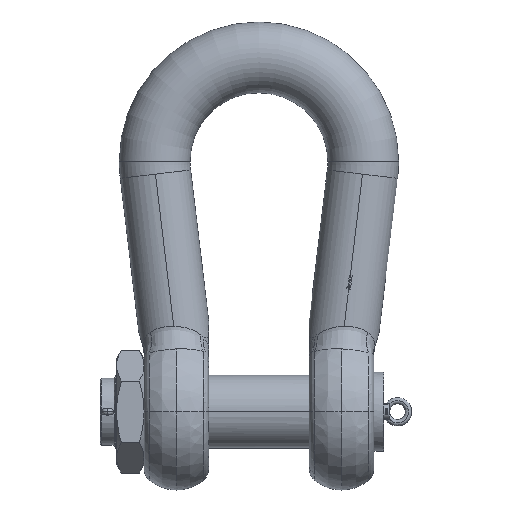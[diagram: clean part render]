
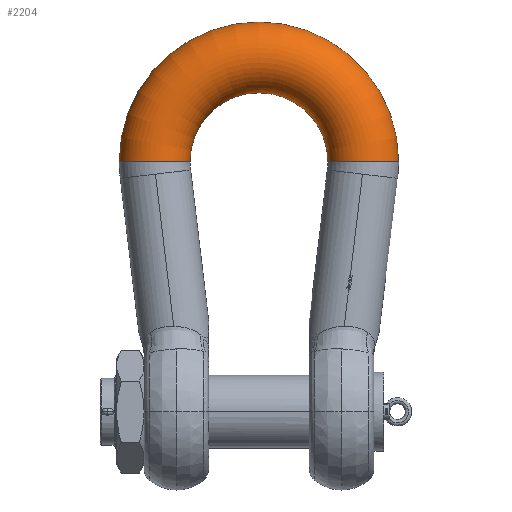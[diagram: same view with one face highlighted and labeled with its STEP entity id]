
A CAD part, front view. The second image highlights one B-rep face of the part: STEP entity #2204.
In plain terms, the highlighted toroidal (fillet/blend) face has major radius 265 mm and minor radius 89.995 mm.
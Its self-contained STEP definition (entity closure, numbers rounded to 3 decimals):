
#2204=ADVANCED_FACE('',(#5242),#5243,.T.);
#5242=FACE_OUTER_BOUND('',#11496,.T.);
#5243=TOROIDAL_SURFACE('',#11497,265.0,89.995);
#11496=EDGE_LOOP('',(#36180,#36181,#36182,#36183));
#11497=AXIS2_PLACEMENT_3D('',#36184,#36185,#36186);
#36180=ORIENTED_EDGE('',*,*,#47977,.T.);
#36181=ORIENTED_EDGE('',*,*,#47978,.F.);
#36182=ORIENTED_EDGE('',*,*,#47979,.T.);
#36183=ORIENTED_EDGE('',*,*,#47836,.F.);
#36184=CARTESIAN_POINT('',(0.0,0.0,635.5));
#36185=DIRECTION('',(0.0,-1.0,0.0));
#36186=DIRECTION('',(1.0,0.0,0.0));
#47836=EDGE_CURVE('',#55359,#55358,#55361,.F.);
#47977=EDGE_CURVE('',#55359,#55548,#55549,.F.);
#47978=EDGE_CURVE('',#55550,#55548,#55551,.T.);
#47979=EDGE_CURVE('',#55550,#55358,#55552,.T.);
#55358=VERTEX_POINT('',#70410);
#55359=VERTEX_POINT('',#70411);
#55361=CIRCLE('',#70413,89.995);
#55548=VERTEX_POINT('',#70880);
#55549=CIRCLE('',#70881,175.005);
#55550=VERTEX_POINT('',#70882);
#55551=B_SPLINE_CURVE_WITH_KNOTS('',5,(#70883,#70884,#70885,#70886,#70887,#70888,#70889,#70890,#70891,#70892,#70893,#70894,#70895,#70896,#70897,#70898,#70899,#70900,#70901,#70902,#70903,#70904,#70905,#70906),.UNSPECIFIED.,.F.,.F.,(6,3,3,3,3,3,3,6),(0.,59.152,118.304,177.456,236.608,295.759,354.911,399.834),.UNSPECIFIED.);
#55552=CIRCLE('',#70907,354.995);
#70410=CARTESIAN_POINT('',(-354.995,0.,635.5));
#70411=CARTESIAN_POINT('',(-175.005,0.,635.5));
#70413=AXIS2_PLACEMENT_3D('',#102463,#102464,#102465);
#70880=CARTESIAN_POINT('',(175.005,0.,635.5));
#70881=AXIS2_PLACEMENT_3D('',#102470,#102471,#102472);
#70882=CARTESIAN_POINT('',(354.995,0.0,635.5));
#70883=CARTESIAN_POINT('',(354.995,0.,635.5));
#70884=CARTESIAN_POINT('',(354.995,-8.365,635.5));
#70885=CARTESIAN_POINT('',(354.023,-16.731,635.5));
#70886=CARTESIAN_POINT('',(352.079,-24.946,635.5));
#70887=CARTESIAN_POINT('',(346.318,-40.773,635.5));
#70888=CARTESIAN_POINT('',(337.081,-54.858,635.5));
#70889=CARTESIAN_POINT('',(331.661,-61.33,635.5));
#70890=CARTESIAN_POINT('',(319.417,-72.896,635.5));
#70891=CARTESIAN_POINT('',(304.847,-81.347,635.5));
#70892=CARTESIAN_POINT('',(297.1,-84.703,635.5));
#70893=CARTESIAN_POINT('',(280.971,-89.554,635.5));
#70894=CARTESIAN_POINT('',(264.159,-90.578,635.5));
#70895=CARTESIAN_POINT('',(255.73,-90.106,635.5));
#70896=CARTESIAN_POINT('',(239.137,-87.213,635.5));
#70897=CARTESIAN_POINT('',(223.65,-80.593,635.5));
#70898=CARTESIAN_POINT('',(216.326,-76.393,635.5));
#70899=CARTESIAN_POINT('',(202.79,-66.37,635.5));
#70900=CARTESIAN_POINT('',(191.913,-53.51,635.5));
#70901=CARTESIAN_POINT('',(187.249,-46.473,635.5));
#70902=CARTESIAN_POINT('',(180.556,-33.253,635.5));
#70903=CARTESIAN_POINT('',(176.687,-18.993,635.5));
#70904=CARTESIAN_POINT('',(175.566,-12.706,635.5));
#70905=CARTESIAN_POINT('',(175.005,-6.353,635.5));
#70906=CARTESIAN_POINT('',(175.005,0.,635.5));
#70907=AXIS2_PLACEMENT_3D('',#102473,#102474,#102475);
#102463=CARTESIAN_POINT('',(-265.0,0.0,635.5));
#102464=DIRECTION('',(0.,0.0,1.0));
#102465=DIRECTION('',(-1.0,0.0,0.));
#102470=CARTESIAN_POINT('',(0.0,0.,635.5));
#102471=DIRECTION('',(0.0,-1.0,0.0));
#102472=DIRECTION('',(-1.0,0.0,0.0));
#102473=CARTESIAN_POINT('',(0.0,0.,635.5));
#102474=DIRECTION('',(0.0,-1.0,0.0));
#102475=DIRECTION('',(-1.0,0.0,0.0));
